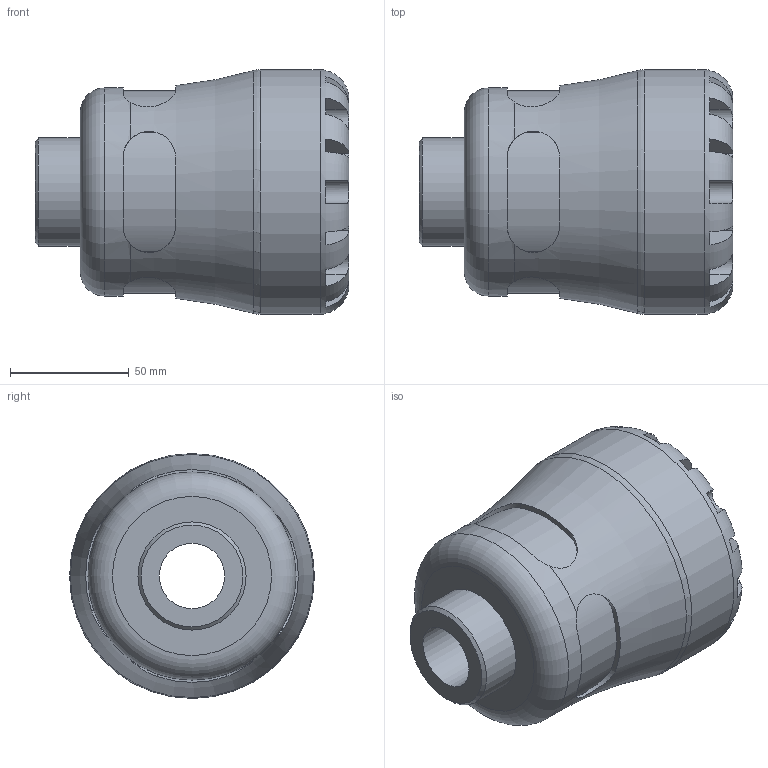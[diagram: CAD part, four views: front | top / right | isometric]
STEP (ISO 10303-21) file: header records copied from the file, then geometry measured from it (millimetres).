
FILE_DESCRIPTION(/* description */ ('PLASSON MALE INTEGRAL BRASS THREAD 63X1.1/2" SERIES 1'),/* implementation_level */ '2;1');
FILE_NAME(/* name */ 'C:\Dropbox\KIMPROJECTS-Inventor\99-16-3568-Processing\1072\107200063015_197200063015.ipt.stp',/* time_stamp */ '2017-01-22T10:49:13+02:00',/* author */ ('KIM'),/* organization */ (''),/* preprocessor_version */ 'ST-DEVELOPER v15.6',/* originating_system */ 'Autodesk Inventor 2015',/* authorisation */ '');
FILE_SCHEMA (('AUTOMOTIVE_DESIGN { 1 0 10303 214 3 1 1 }'));
Length unit declared in the file: millimetre
Products named in the file (1): 107200063015_197200063015
Bounding box: 132 x 103 x 103 mm (x, y, z)
Volume: 498411.1 mm3; surface area: 72037.4 mm2
Topology: 1 solids, 1 shells, 107 faces, 279 edges, 176 vertices
Faces by surface type: plane 68, cylinder 33, torus 4, cone 2
Full cylindrical faces by diameter (mm): 27.485 x1, 45.485 x1, 63 x1, 87.55 x1, 103 x1
Entity records: 4123 total; most frequent: CARTESIAN_POINT 1506, ORIENTED_EDGE 530, DIRECTION 498, EDGE_CURVE 265, AXIS2_PLACEMENT_3D 205, VERTEX_POINT 173, EDGE_LOOP 122, STYLED_ITEM 108
